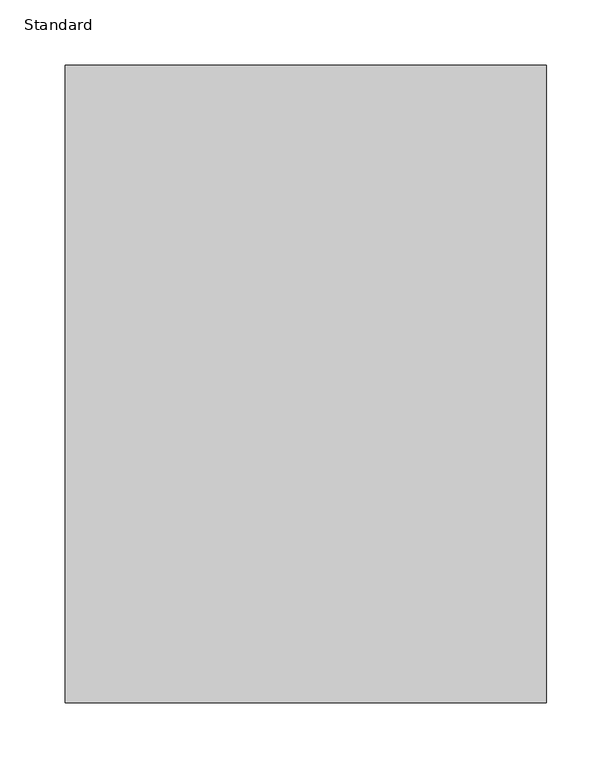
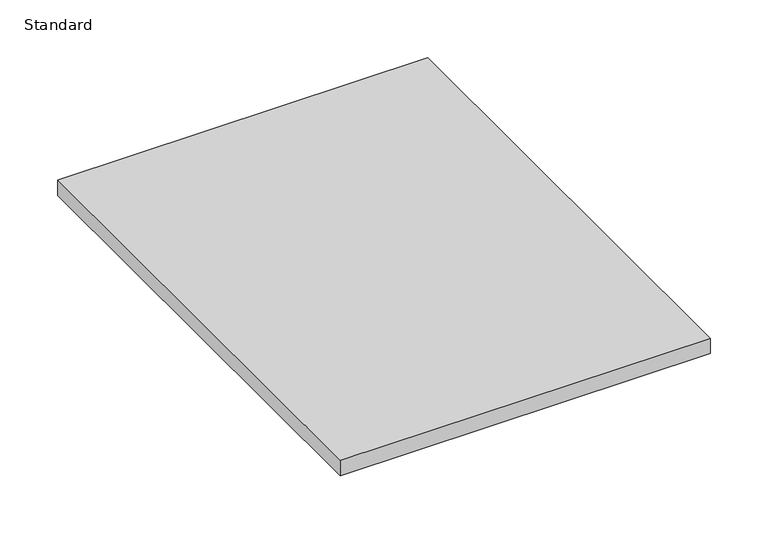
"""IFC4 building model written with IfcOpenShell, lengths in millimetres: furniture geometry, X_Locker-Duracube-Shelf : Standard."""

import ifcopenshell
import ifcopenshell.guid

model = None  # the IFC model being written
_history = None  # IfcOwnerHistory: only IFC2X3 demands one
_inside = {}  # id of a spatial element -> (the spatial element, [elements in it])
_under = {}  # id of a project, library or spatial element -> (it, [spatial elements below it])
_declared = {}  # id of a project -> (the project, [libraries it declares])
_typed = {}  # id of a type object -> (the type object, [elements of that type])
_made_of = {}  # id of a material, layer set ... -> (it, [elements and type objects made of it])


def new_model(schema):
    """Start an empty IFC model of exactly this schema.

    Asked for "IFC4X3", IfcOpenShell would pick the latest addendum, in which some entities
    have other attributes; the version numbers below select the first issue.
    IFC2X3 requires an IfcOwnerHistory on every rooted entity: one is made here for all.
    """
    global model, _history
    if schema == "IFC4X3":
        model = ifcopenshell.file(schema_version=(4, 3, 0, 0))
    else:
        model = ifcopenshell.file(schema=schema)
    _inside.clear()
    _under.clear()
    _declared.clear()
    _typed.clear()
    _made_of.clear()
    _history = None
    if model.schema == "IFC2X3":
        org = make("IfcOrganization", Name="unknown")
        user = make(
            "IfcPersonAndOrganization",
            ThePerson=make("IfcPerson", FamilyName="unknown"),
            TheOrganization=org,
        )
        app = make(
            "IfcApplication",
            ApplicationDeveloper=org,
            Version="unknown",
            ApplicationFullName="unknown",
            ApplicationIdentifier="unknown",
        )
        _history = make(
            "IfcOwnerHistory",
            OwningUser=user,
            OwningApplication=app,
            ChangeAction="ADDED",
            CreationDate=0,
        )
    return model


def make(cls, **values):
    """One entity of the class cls with the attributes given. An attribute that is None is left unset."""
    return model.create_entity(
        cls, **{name: value for name, value in values.items() if value is not None}
    )


def rooted(cls, **values):
    """An entity with a GlobalId (a new one), such as an element, a storey or a relation."""
    return make(cls, GlobalId=ifcopenshell.guid.new(), OwnerHistory=_history, **values)


def si_unit(unit_type, name, prefix=None):
    """IfcSIUnit, for example si_unit("LENGTHUNIT", "METRE", prefix="MILLI")."""
    return make("IfcSIUnit", UnitType=unit_type, Prefix=prefix, Name=name)


def assignment(units):
    """IfcUnitAssignment: the units of a project."""
    return None if units is None else make("IfcUnitAssignment", Units=units)


def point(xyz):
    """IfcCartesianPoint."""
    return None if xyz is None else make("IfcCartesianPoint", Coordinates=xyz)


def direction(xyz):
    """IfcDirection."""
    return None if xyz is None else make("IfcDirection", DirectionRatios=xyz)


def frame(location, z_axis=None, x_axis=None):
    """IfcAxis2Placement3D, a coordinate frame: its origin and axes. An axis left out is left unset."""
    return make(
        "IfcAxis2Placement3D",
        Location=point(location),
        Axis=direction(z_axis),
        RefDirection=direction(x_axis),
    )


def origin():
    """The frame at (0, 0, 0) with its axes left unset."""
    return frame((0.0, 0.0, 0.0))


def origin_with_axes():
    """The frame at (0, 0, 0) with the z axis (0, 0, 1) and the x axis (1, 0, 0) written out."""
    return frame((0.0, 0.0, 0.0), z_axis=(0.0, 0.0, 1.0), x_axis=(1.0, 0.0, 0.0))


def place(relative_to, where):
    """IfcLocalPlacement: puts the frame where relative to a parent placement (None: the world)."""
    return make(
        "IfcLocalPlacement", PlacementRelTo=relative_to, RelativePlacement=where
    )


def context(
    kind, dimensions, precision=None, world=None, true_north=None, identifier=None
):
    """IfcGeometricRepresentationContext, for example the 3D "Model" context."""
    return make(
        "IfcGeometricRepresentationContext",
        ContextIdentifier=identifier,
        ContextType=kind,
        CoordinateSpaceDimension=dimensions,
        Precision=precision,
        WorldCoordinateSystem=world,
        TrueNorth=true_north,
    )


def project(units=None, contexts=None):
    """IfcProject with its units and contexts."""
    return rooted(
        "IfcProject",
        Name="project",
        RepresentationContexts=contexts,
        UnitsInContext=assignment(units),
    )


def spatial(cls, under=None, at=None, **own):
    """A site, building, storey or space (cls), placed at a placement, below another one or the project."""
    s = rooted(cls, ObjectPlacement=at, **own)
    if under is not None:
        _under.setdefault(under.id(), (under, []))[1].append(s)
    return s


def polyline(points):
    """IfcPolyline through the points."""
    return make("IfcPolyline", Points=[point(p) for p in points])


def outline(outer, holes=None, kind="AREA"):
    """IfcArbitraryClosedProfileDef: a profile drawn as a closed curve; with holes, ...WithVoids."""
    if holes is None:
        return make("IfcArbitraryClosedProfileDef", ProfileType=kind, OuterCurve=outer)
    return make(
        "IfcArbitraryProfileDefWithVoids",
        ProfileType=kind,
        OuterCurve=outer,
        InnerCurves=holes,
    )


def extrude(swept, where, along, depth):
    """IfcExtrudedAreaSolid: the profile swept, set in the frame where, extruded along a direction by depth."""
    return make(
        "IfcExtrudedAreaSolid",
        SweptArea=swept,
        Position=where,
        ExtrudedDirection=direction(along),
        Depth=depth,
    )


def shape(context_of_items, identifier, shape_type, items):
    """IfcShapeRepresentation: the items that make up one representation, for example the "Body"."""
    return make(
        "IfcShapeRepresentation",
        ContextOfItems=context_of_items,
        RepresentationIdentifier=identifier,
        RepresentationType=shape_type,
        Items=items,
    )


def source(mapping_origin, context_of_items, identifier, shape_type, items):
    """IfcRepresentationMap: a shape defined once, which mapped items show again and again."""
    return make(
        "IfcRepresentationMap",
        MappingOrigin=mapping_origin,
        MappedRepresentation=shape(context_of_items, identifier, shape_type, items),
    )


def transform(
    local_origin,
    x_axis=None,
    y_axis=None,
    z_axis=None,
    scale=None,
    scale2=None,
    scale3=None,
    uniform=True,
):
    """IfcCartesianTransformationOperator3D, or its non-uniform kind. x_axis, y_axis, z_axis: its Axis1, 2, 3."""
    if uniform:
        return make(
            "IfcCartesianTransformationOperator3D",
            Axis1=direction(x_axis),
            Axis2=direction(y_axis),
            LocalOrigin=point(local_origin),
            Scale=scale,
            Axis3=direction(z_axis),
        )
    return make(
        "IfcCartesianTransformationOperator3DnonUniform",
        Axis1=direction(x_axis),
        Axis2=direction(y_axis),
        LocalOrigin=point(local_origin),
        Scale=scale,
        Axis3=direction(z_axis),
        Scale2=scale2,
        Scale3=scale3,
    )


def mapped(mapping_source, mapping_target):
    """IfcMappedItem: shows the shape of a source again, moved by a transform."""
    return make(
        "IfcMappedItem", MappingSource=mapping_source, MappingTarget=mapping_target
    )


def made_of(thing, what):
    """Note that an element or type object is made of a material, layer set ...; save() writes the relation."""
    if what is not None:
        _made_of.setdefault(what.id(), (what, []))[1].append(thing)
    return thing


def element(
    cls,
    number,
    at=None,
    inside=None,
    cuts=None,
    type_object=None,
    material=None,
    context=None,
    identifier="Body",
    shape_type=None,
    held_by="IfcProductDefinitionShape",
    body=None,
    shapes=None,
    **own,
):
    """One element of the class cls, such as IfcWall. Its Tag is "e" and its number.

    at: its placement. inside: the storey or other place that contains it. cuts: it is an
    opening in that element (IfcRelVoidsElement). A single representation is given by context,
    identifier, shape_type and body (its items); several are given by shapes. held_by: the class
    of the entity that holds the representations. save() writes the other relations.
    """
    e = rooted(cls, Tag="e%d" % number, ObjectPlacement=at, **own)
    if body is not None:
        shapes = [shape(context, identifier, shape_type, body)]
    if shapes is not None:
        e.Representation = make(held_by, Representations=shapes)
    if inside is not None:
        _inside.setdefault(inside.id(), (inside, []))[1].append(e)
    if cuts is not None:
        rooted(
            "IfcRelVoidsElement", RelatingBuildingElement=cuts, RelatedOpeningElement=e
        )
    if type_object is not None:
        _typed.setdefault(type_object.id(), (type_object, []))[1].append(e)
    return made_of(e, material)


def aggregate(whole, parts):
    """IfcRelAggregates: a whole, such as a stair, and the parts it consists of."""
    return rooted("IfcRelAggregates", RelatingObject=whole, RelatedObjects=parts)


def save(model, path):
    """Write the relations noted so far, then the file.

    IfcRelAggregates (storeys below a building ...), IfcRelContainedInSpatialStructure (elements
    in a storey), IfcRelDefinesByType, IfcRelAssociatesMaterial and IfcRelDeclares: one each for
    every whole, place, type object, material and project.
    """
    for whole, parts in _under.values():
        aggregate(whole, parts)
    for where, things in _inside.values():
        rooted(
            "IfcRelContainedInSpatialStructure",
            RelatedElements=things,
            RelatingStructure=where,
        )
    for kind, things in _typed.values():
        rooted("IfcRelDefinesByType", RelatedObjects=things, RelatingType=kind)
    for what, things in _made_of.values():
        rooted("IfcRelAssociatesMaterial", RelatedObjects=things, RelatingMaterial=what)
    for by, libraries in _declared.values():
        rooted("IfcRelDeclares", RelatingContext=by, RelatedDefinitions=libraries)
    model.write(path)


def standard_b71e501f(model_context):
    return source(origin(), model_context, "Body", "SweptSolid", [
        extrude(outline(polyline([(228.7003264, -305.5), (228.7003264, -792.5), (-139.2996736, -792.5), (-139.2996736, -305.5), (228.7003264, -305.5)])), origin_with_axes(), (0.0, 0.0, 1.0), 16.0),
    ])


if __name__ == "__main__":
    model = new_model("IFC4")
    model_context = context("Model", 3, world=origin())
    ifc_project = project(units=[si_unit("LENGTHUNIT", "METRE", prefix="MILLI")], contexts=[model_context])
    site = spatial("IfcSite", under=ifc_project)
    building = spatial("IfcBuilding", under=site)
    placement = place(None, origin())
    standard_shape = standard_b71e501f(model_context)
    element("IfcFurniture", 1, ObjectType="X_Locker-Duracube-Shelf : Standard", at=placement, inside=building, context=model_context, shape_type="MappedRepresentation", body=[
        mapped(standard_shape, transform((0.0, 0.0, 0.0), x_axis=(1.0, 0.0, 0.0), y_axis=(0.0, 1.0, 0.0), z_axis=(0.0, 0.0, 1.0))),
    ])
    save(model, "model.ifc")
